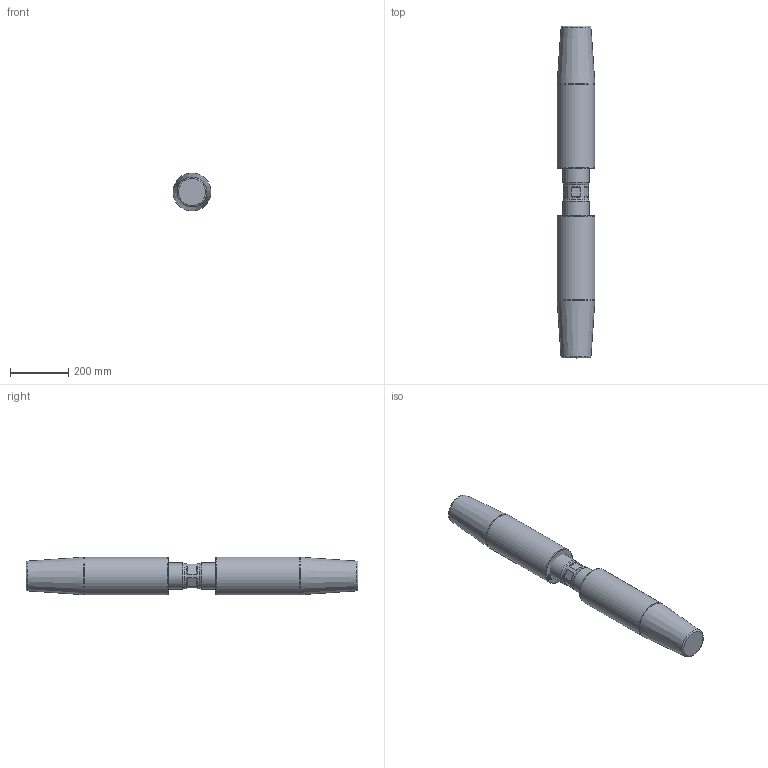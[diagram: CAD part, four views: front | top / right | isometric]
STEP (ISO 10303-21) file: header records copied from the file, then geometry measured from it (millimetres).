
FILE_DESCRIPTION(/* description */ (''),/* implementation_level */ '2;1');
FILE_NAME(/* name */ 'D:\Clienti\Redaelli (inventor)\CYA\STEP\Arrangement\CYA044 52 061 2.stp',/* time_stamp */ '2021-05-09T10:12:09+02:00',/* author */ ('fabri'),/* organization */ (''),/* preprocessor_version */ 'ST-DEVELOPER v16.13',/* originating_system */ 'Autodesk Inventor 2018',/* authorisation */ '');
FILE_SCHEMA (('AUTOMOTIVE_DESIGN { 1 0 10303 214 3 1 1 }'));
Length unit declared in the file: millimetre
Products named in the file (4): CYA012-54-062-0; TBF012-12-012-1; TBF012-13-012-0; TBF012-13-012-0_1
Assembly tree (3 placements, depth 2):
  CYA012-54-062-0
    TBF012-12-012-1
    TBF012-13-012-0
    TBF012-13-012-0_1
Bounding box: 129.91 x 1140 x 129.91 mm (x, y, z)
Volume: 15257470 mm3; surface area: 585918.7 mm2
Topology: 3 solids, 3 shells, 475 faces, 1260 edges, 840 vertices
Faces by surface type: plane 252, bspline 192, cylinder 19, cone 8, torus 4
Full cylindrical faces by diameter (mm): 8.376 x2, 86 x1, 90 x2, 130 x2
Entity records: 15964 total; most frequent: CARTESIAN_POINT 5445, ORIENTED_EDGE 2478, DIRECTION 1441, EDGE_CURVE 1239, VERTEX_POINT 838, LINE 805, VECTOR 805, EDGE_LOOP 543
